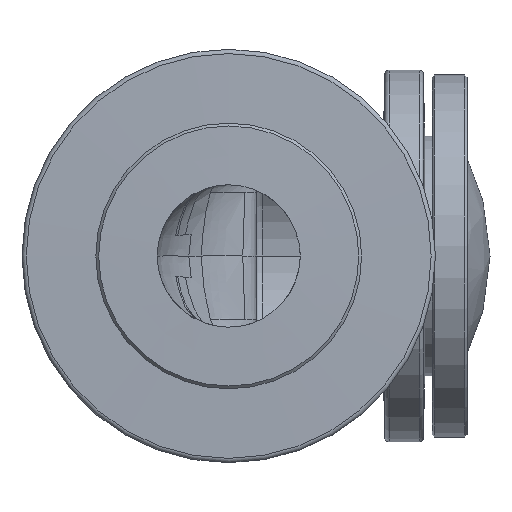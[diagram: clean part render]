
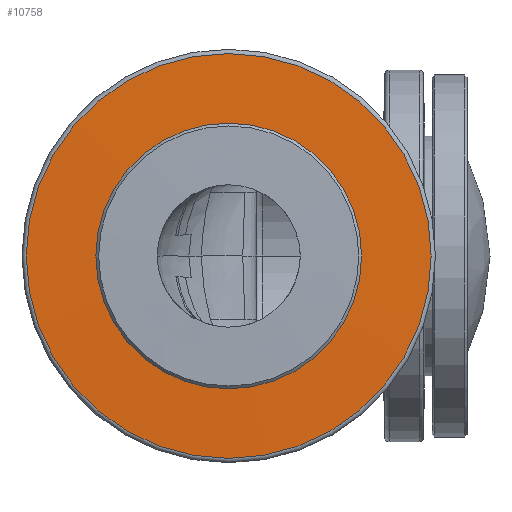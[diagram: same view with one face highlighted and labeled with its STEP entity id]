
A CAD part, front view. The second image highlights one B-rep face of the part: STEP entity #10758.
In plain terms, the highlighted conical face has half-angle 88.8 degrees and reference radius 60.842 mm.
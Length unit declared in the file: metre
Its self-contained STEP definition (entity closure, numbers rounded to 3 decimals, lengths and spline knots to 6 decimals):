
#1528=CONICAL_SURFACE('',#11594,0.060842,1.55);
#1714=FACE_OUTER_BOUND('',#2370,.T.);
#2370=EDGE_LOOP('',(#7550,#7551,#7552,#7553,#7554));
#3004=LINE('',#16713,#3461);
#3461=VECTOR('',#12492,0.060842);
#3956=CIRCLE('',#11548,0.092692);
#3957=CIRCLE('',#11549,0.092692);
#3984=CIRCLE('',#11595,0.060842);
#4307=VERTEX_POINT('',#14080);
#4308=VERTEX_POINT('',#14081);
#4354=VERTEX_POINT('',#16712);
#5529=EDGE_CURVE('',#4307,#4308,#3956,.T.);
#5530=EDGE_CURVE('',#4308,#4307,#3957,.T.);
#5590=EDGE_CURVE('',#4307,#4354,#3004,.T.);
#5591=EDGE_CURVE('',#4354,#4354,#3984,.T.);
#7550=ORIENTED_EDGE('',*,*,#5529,.T.);
#7551=ORIENTED_EDGE('',*,*,#5530,.T.);
#7552=ORIENTED_EDGE('',*,*,#5590,.T.);
#7553=ORIENTED_EDGE('',*,*,#5591,.F.);
#7554=ORIENTED_EDGE('',*,*,#5590,.F.);
#10758=ADVANCED_FACE('',(#1714),#1528,.T.);
#11548=AXIS2_PLACEMENT_3D('',#14082,#12393,#12394);
#11549=AXIS2_PLACEMENT_3D('',#14083,#12395,#12396);
#11594=AXIS2_PLACEMENT_3D('',#16711,#12490,#12491);
#11595=AXIS2_PLACEMENT_3D('',#16714,#12493,#12494);
#12393=DIRECTION('center_axis',(0.,-1.,0.));
#12394=DIRECTION('ref_axis',(0.,0.,1.));
#12395=DIRECTION('center_axis',(0.,-1.,0.));
#12396=DIRECTION('ref_axis',(0.,0.,1.));
#12490=DIRECTION('center_axis',(0.,1.,0.));
#12491=DIRECTION('ref_axis',(0.,0.,-1.));
#12492=DIRECTION('',(0.,-0.021,-1.));
#12493=DIRECTION('center_axis',(0.,-1.,0.));
#12494=DIRECTION('ref_axis',(0.,0.,-1.));
#14080=CARTESIAN_POINT('',(0.305086,0.022435,0.092692));
#14081=CARTESIAN_POINT('',(0.305086,0.022435,-0.092692));
#14082=CARTESIAN_POINT('Origin',(0.305086,0.022435,0.));
#14083=CARTESIAN_POINT('Origin',(0.305086,0.022435,0.));
#16711=CARTESIAN_POINT('Origin',(0.305086,0.021768,0.));
#16712=CARTESIAN_POINT('',(0.305086,0.021768,0.060842));
#16713=CARTESIAN_POINT('',(0.305086,0.021768,0.060842));
#16714=CARTESIAN_POINT('Origin',(0.305086,0.021768,0.));
